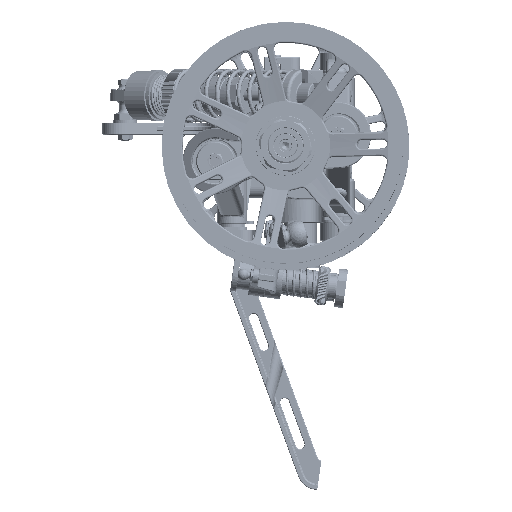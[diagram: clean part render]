
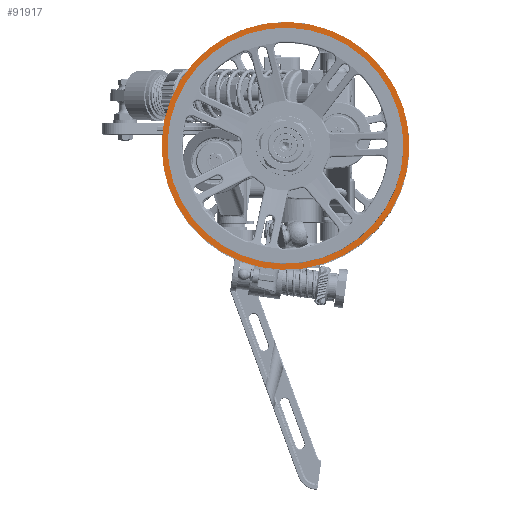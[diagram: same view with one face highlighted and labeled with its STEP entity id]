
A CAD part, left-side view. The second image highlights one B-rep face of the part: STEP entity #91917.
In plain terms, the highlighted planar face has unit normal (-1, 0.002, 0.011) as drawn and (-1, 0, 0) by its records, which use the part's own axes.
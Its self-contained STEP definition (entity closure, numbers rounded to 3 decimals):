
#17836=PLANE('',#104668);
#19079=FACE_BOUND('',#31420,.T.);
#24606=FACE_OUTER_BOUND('',#31419,.T.);
#31419=EDGE_LOOP('',(#84035));
#31420=EDGE_LOOP('',(#84036));
#36494=CIRCLE('',#104669,41.5);
#36495=CIRCLE('',#104670,39.5);
#44844=VERTEX_POINT('',#218449);
#44845=VERTEX_POINT('',#218451);
#57915=EDGE_CURVE('',#44844,#44844,#36494,.T.);
#57916=EDGE_CURVE('',#44845,#44845,#36495,.T.);
#84035=ORIENTED_EDGE('',*,*,#57915,.F.);
#84036=ORIENTED_EDGE('',*,*,#57916,.T.);
#91917=ADVANCED_FACE('',(#24606,#19079),#17836,.T.);
#104668=AXIS2_PLACEMENT_3D('',#218448,#130342,#130343);
#104669=AXIS2_PLACEMENT_3D('',#218450,#130344,#130345);
#104670=AXIS2_PLACEMENT_3D('',#218452,#130346,#130347);
#130342=DIRECTION('center_axis',(-1.,0.,0.));
#130343=DIRECTION('ref_axis',(0.,0.,1.));
#130344=DIRECTION('center_axis',(1.,0.,0.));
#130345=DIRECTION('ref_axis',(0.,0.,-1.));
#130346=DIRECTION('center_axis',(1.,0.,0.));
#130347=DIRECTION('ref_axis',(0.,0.,-1.));
#218448=CARTESIAN_POINT('Origin',(-12.5,41.5,0.));
#218449=CARTESIAN_POINT('',(-12.5,41.5,0.));
#218450=CARTESIAN_POINT('Origin',(-12.5,0.,0.));
#218451=CARTESIAN_POINT('',(-12.5,39.5,0.));
#218452=CARTESIAN_POINT('Origin',(-12.5,0.,0.));
